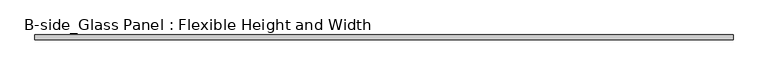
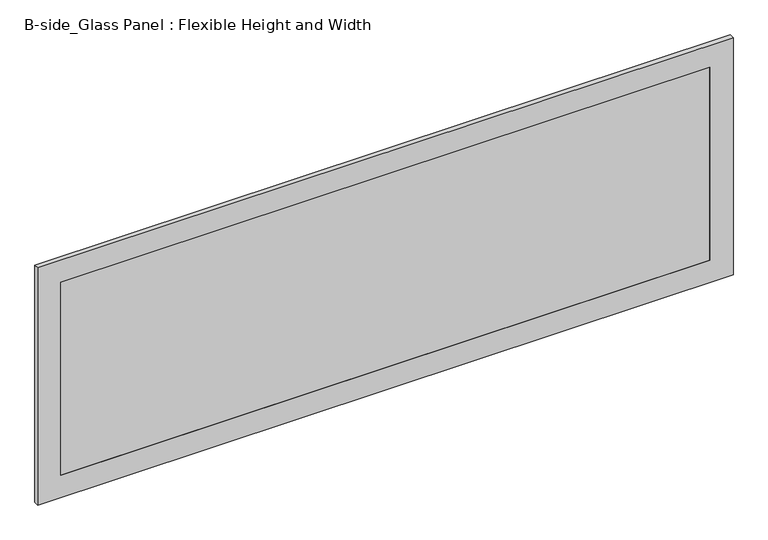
"""IFC4 building model written with IfcOpenShell, lengths in millimetres: proxy geometry, B-side_Glass Panel : Flexible Height and Width."""

from ifc_helpers import new_model, si_unit, frame, origin, place, context, project, spatial, polyline, outline, extrude, source, transform, mapped, element, save


def b_side_glass_panel_flexible_height_and_width_01e2b4a5(model_context):
    return source(origin(), model_context, "Body", "SweptSolid", [
        extrude(outline(polyline([(536.0, 1487.0), (536.0, 0.0), (0.0, 0.0), (0.0, 1487.0), (536.0, 1487.0)]), holes=[polyline([(486.0, 50.0), (486.0, 1437.0), (50.0, 1437.0), (50.0, 50.0), (486.0, 50.0)])]), frame((0.0, -10.0, 0.0), z_axis=(0.0, 1.0, 0.0), x_axis=(0.0, 0.0, 1.0)), (0.0, 0.0, 1.0), 10.0),
        extrude(outline(polyline([(1437.0, -10.0), (50.0, -10.0), (50.0, 0.0), (1437.0, 0.0), (1437.0, -10.0)])), frame((0.0, 0.0, 50.0), z_axis=(0.0, 0.0, 1.0), x_axis=(1.0, 0.0, 0.0)), (0.0, 0.0, 1.0), 436.0),
    ])


if __name__ == "__main__":
    model = new_model("IFC4")
    model_context = context("Model", 3, world=origin())
    ifc_project = project(units=[si_unit("LENGTHUNIT", "METRE", prefix="MILLI")], contexts=[model_context])
    site = spatial("IfcSite", under=ifc_project)
    building = spatial("IfcBuilding", under=site)
    placement = place(None, origin())
    b_side_glass_panel_flexible_height_and_width_shape = b_side_glass_panel_flexible_height_and_width_01e2b4a5(model_context)
    element("IfcBuildingElementProxy", 1, Name="B-side_Glass Panel : Flexible Height and Width", ObjectType="B-side_Glass Panel : Flexible Height and Width", at=placement, inside=building, context=model_context, shape_type="MappedRepresentation", body=[
        mapped(b_side_glass_panel_flexible_height_and_width_shape, transform((0.0, 0.0, 0.0), x_axis=(1.0, 0.0, 0.0), y_axis=(0.0, 1.0, 0.0), z_axis=(0.0, 0.0, 1.0))),
    ])
    save(model, "model.ifc")
